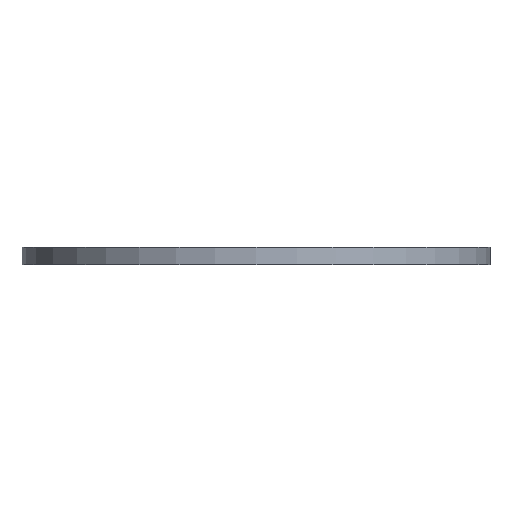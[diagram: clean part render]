
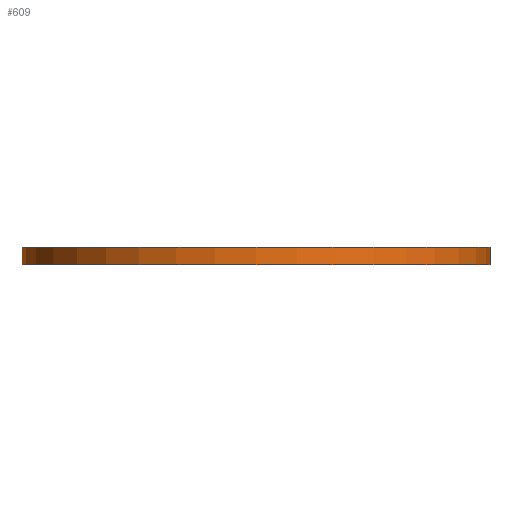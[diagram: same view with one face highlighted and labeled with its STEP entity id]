
A CAD part, front view. The second image highlights one B-rep face of the part: STEP entity #609.
In plain terms, the highlighted cylindrical face has radius 327.5 mm (diameter 655 mm), a full revolution.
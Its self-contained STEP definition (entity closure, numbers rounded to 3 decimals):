
#77=FACE_OUTER_BOUND('',#100,.T.);
#100=EDGE_LOOP('',(#498,#499,#500,#501,#502,#503));
#163=LINE('',#1083,#184);
#184=VECTOR('',#907,327.5);
#245=CIRCLE('',#713,327.5);
#246=CIRCLE('',#714,327.5);
#247=CIRCLE('',#715,327.5);
#248=CIRCLE('',#716,327.5);
#309=VERTEX_POINT('',#1078);
#310=VERTEX_POINT('',#1079);
#311=VERTEX_POINT('',#1082);
#312=VERTEX_POINT('',#1084);
#393=EDGE_CURVE('',#309,#310,#245,.T.);
#394=EDGE_CURVE('',#310,#309,#246,.T.);
#395=EDGE_CURVE('',#310,#311,#163,.T.);
#396=EDGE_CURVE('',#311,#312,#247,.T.);
#397=EDGE_CURVE('',#312,#311,#248,.T.);
#498=ORIENTED_EDGE('',*,*,#393,.F.);
#499=ORIENTED_EDGE('',*,*,#394,.F.);
#500=ORIENTED_EDGE('',*,*,#395,.T.);
#501=ORIENTED_EDGE('',*,*,#396,.T.);
#502=ORIENTED_EDGE('',*,*,#397,.T.);
#503=ORIENTED_EDGE('',*,*,#395,.F.);
#588=CYLINDRICAL_SURFACE('',#712,327.5);
#609=ADVANCED_FACE('',(#77),#588,.T.);
#712=AXIS2_PLACEMENT_3D('',#1077,#901,#902);
#713=AXIS2_PLACEMENT_3D('',#1080,#903,#904);
#714=AXIS2_PLACEMENT_3D('',#1081,#905,#906);
#715=AXIS2_PLACEMENT_3D('',#1085,#908,#909);
#716=AXIS2_PLACEMENT_3D('',#1086,#910,#911);
#901=DIRECTION('center_axis',(0.,0.,1.));
#902=DIRECTION('ref_axis',(1.,0.,0.));
#903=DIRECTION('center_axis',(0.,0.,1.));
#904=DIRECTION('ref_axis',(1.,0.,0.));
#905=DIRECTION('center_axis',(0.,0.,1.));
#906=DIRECTION('ref_axis',(1.,0.,0.));
#907=DIRECTION('',(0.,0.,-1.));
#908=DIRECTION('center_axis',(0.,0.,1.));
#909=DIRECTION('ref_axis',(1.,0.,0.));
#910=DIRECTION('center_axis',(0.,0.,1.));
#911=DIRECTION('ref_axis',(1.,0.,0.));
#1077=CARTESIAN_POINT('Origin',(0.,0.,0.));
#1078=CARTESIAN_POINT('',(327.5,0.,24.));
#1079=CARTESIAN_POINT('',(-327.5,0.,24.));
#1080=CARTESIAN_POINT('Origin',(0.,0.,24.));
#1081=CARTESIAN_POINT('Origin',(0.,0.,24.));
#1082=CARTESIAN_POINT('',(-327.5,0.,0.));
#1083=CARTESIAN_POINT('',(-327.5,0.,0.));
#1084=CARTESIAN_POINT('',(327.5,0.,0.));
#1085=CARTESIAN_POINT('Origin',(0.,0.,0.));
#1086=CARTESIAN_POINT('Origin',(0.,0.,0.));
